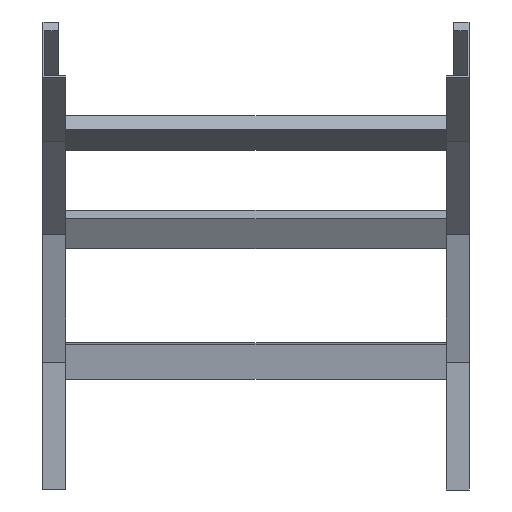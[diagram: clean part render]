
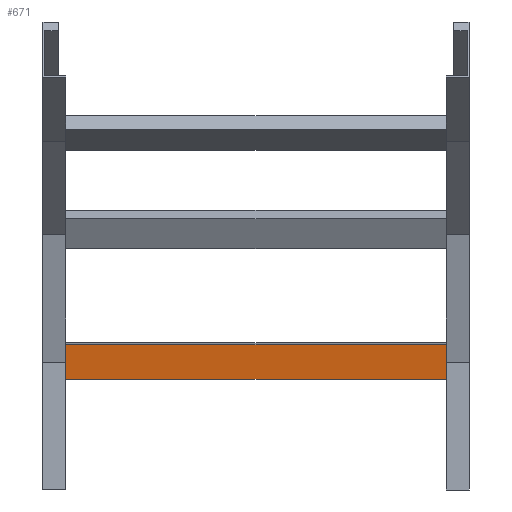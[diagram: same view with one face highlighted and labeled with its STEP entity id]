
A CAD part, front view. The second image highlights one B-rep face of the part: STEP entity #671.
In plain terms, the highlighted planar face has unit normal (0, -0.991, -0.131) as drawn and (0, -1, 0) by its records, which use the part's own axes.
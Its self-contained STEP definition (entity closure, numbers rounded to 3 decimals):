
#27 = CARTESIAN_POINT ( 'NONE',  ( 248., 0., -20.25 ) ) ;
#31 = DIRECTION ( 'NONE',  ( 0., 0., -1. ) ) ;
#75 = CARTESIAN_POINT ( 'NONE',  ( 248., 0., -20.25 ) ) ;
#95 = DIRECTION ( 'NONE',  ( 0., 1., 0. ) ) ;
#98 = CARTESIAN_POINT ( 'NONE',  ( -248., 0., 20.25 ) ) ;
#176 = EDGE_CURVE ( 'NONE', #1201, #1514, #892, .T. ) ;
#200 = ORIENTED_EDGE ( 'NONE', *, *, #176, .F. ) ;
#227 = DIRECTION ( 'NONE',  ( 0., 0., 1. ) ) ;
#241 = VECTOR ( 'NONE', #1305, 1000. ) ;
#266 = LINE ( 'NONE', #780, #241 ) ;
#334 = EDGE_CURVE ( 'NONE', #1470, #1514, #928, .T. ) ;
#350 = ORIENTED_EDGE ( 'NONE', *, *, #1282, .F. ) ;
#511 = PLANE ( 'NONE',  #661 ) ;
#553 = VERTEX_POINT ( 'NONE', #1074 ) ;
#560 = DIRECTION ( 'NONE',  ( 0., 0., -1. ) ) ;
#661 = AXIS2_PLACEMENT_3D ( 'NONE', #1512, #95, #227 ) ;
#667 = VECTOR ( 'NONE', #31, 1000. ) ;
#671 = ADVANCED_FACE ( 'NONE', ( #1242 ), #511, .F. ) ;
#780 = CARTESIAN_POINT ( 'NONE',  ( 248., 0., 20.25 ) ) ;
#848 = EDGE_LOOP ( 'NONE', ( #1133, #200, #350, #1373 ) ) ;
#892 = LINE ( 'NONE', #27, #1447 ) ;
#928 = LINE ( 'NONE', #1566, #1474 ) ;
#970 = EDGE_CURVE ( 'NONE', #553, #1470, #266, .T. ) ;
#1017 = DIRECTION ( 'NONE',  ( -1., 0., 0. ) ) ;
#1074 = CARTESIAN_POINT ( 'NONE',  ( 248., 0., 20.25 ) ) ;
#1094 = CARTESIAN_POINT ( 'NONE',  ( -248., 0., -20.25 ) ) ;
#1133 = ORIENTED_EDGE ( 'NONE', *, *, #334, .T. ) ;
#1190 = CARTESIAN_POINT ( 'NONE',  ( 248., 0., 20.25 ) ) ;
#1201 = VERTEX_POINT ( 'NONE', #75 ) ;
#1242 = FACE_OUTER_BOUND ( 'NONE', #848, .T. ) ;
#1282 = EDGE_CURVE ( 'NONE', #553, #1201, #1457, .T. ) ;
#1305 = DIRECTION ( 'NONE',  ( -1., 0., 0. ) ) ;
#1373 = ORIENTED_EDGE ( 'NONE', *, *, #970, .T. ) ;
#1447 = VECTOR ( 'NONE', #1017, 1000. ) ;
#1457 = LINE ( 'NONE', #1190, #667 ) ;
#1470 = VERTEX_POINT ( 'NONE', #98 ) ;
#1474 = VECTOR ( 'NONE', #560, 1000. ) ;
#1512 = CARTESIAN_POINT ( 'NONE',  ( 248., 0., 20.25 ) ) ;
#1514 = VERTEX_POINT ( 'NONE', #1094 ) ;
#1566 = CARTESIAN_POINT ( 'NONE',  ( -248., 0., 20.25 ) ) ;
